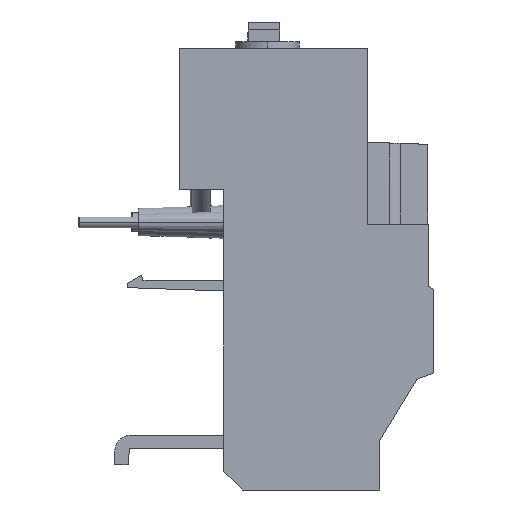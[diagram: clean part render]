
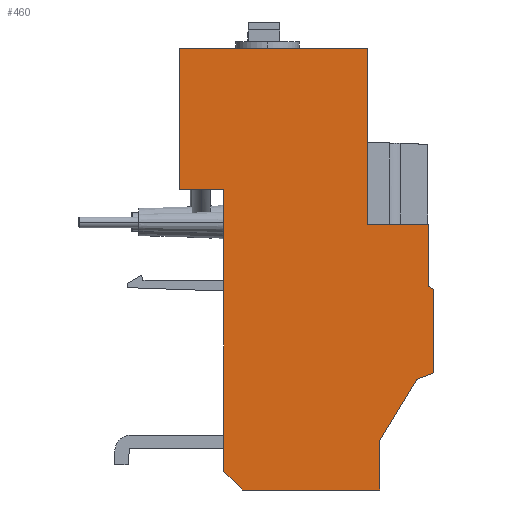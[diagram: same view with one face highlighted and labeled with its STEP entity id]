
A CAD part, left-side view. The second image highlights one B-rep face of the part: STEP entity #460.
In plain terms, the highlighted planar face has unit normal (-1, 0, 0).
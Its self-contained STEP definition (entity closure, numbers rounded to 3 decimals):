
#460 = ADVANCED_FACE( '', ( #1283 ), #1284, .F. );
#1283 = FACE_OUTER_BOUND( '', #2106, .T. );
#1284 = PLANE( '', #2107 );
#2106 = EDGE_LOOP( '', ( #5359, #5360, #5361, #5362, #5363, #5364, #5365, #5366, #5367, #5368, #5369, #5370, #5371, #5372 ) );
#2107 = AXIS2_PLACEMENT_3D( '', #5373, #5374, #5375 );
#5359 = ORIENTED_EDGE( '', *, *, #6400, .F. );
#5360 = ORIENTED_EDGE( '', *, *, #6402, .F. );
#5361 = ORIENTED_EDGE( '', *, *, #6404, .F. );
#5362 = ORIENTED_EDGE( '', *, *, #6411, .F. );
#5363 = ORIENTED_EDGE( '', *, *, #6414, .F. );
#5364 = ORIENTED_EDGE( '', *, *, #6417, .F. );
#5365 = ORIENTED_EDGE( '', *, *, #6420, .F. );
#5366 = ORIENTED_EDGE( '', *, *, #6423, .F. );
#5367 = ORIENTED_EDGE( '', *, *, #6426, .F. );
#5368 = ORIENTED_EDGE( '', *, *, #6428, .F. );
#5369 = ORIENTED_EDGE( '', *, *, #6430, .F. );
#5370 = ORIENTED_EDGE( '', *, *, #6203, .F. );
#5371 = ORIENTED_EDGE( '', *, *, #5713, .F. );
#5372 = ORIENTED_EDGE( '', *, *, #5687, .F. );
#5373 = CARTESIAN_POINT( '', ( 0., 0., 0. ) );
#5374 = DIRECTION( '', ( 1., 0., 0. ) );
#5375 = DIRECTION( '', ( 0., 0., -1. ) );
#5687 = EDGE_CURVE( '', #7021, #7023, #7024, .T. );
#5713 = EDGE_CURVE( '', #7023, #7062, #7063, .T. );
#6203 = EDGE_CURVE( '', #7062, #7836, #7837, .T. );
#6400 = EDGE_CURVE( '', #8140, #7021, #8142, .T. );
#6402 = EDGE_CURVE( '', #8143, #8140, #8145, .T. );
#6404 = EDGE_CURVE( '', #8146, #8143, #8148, .T. );
#6411 = EDGE_CURVE( '', #8157, #8146, #8159, .T. );
#6414 = EDGE_CURVE( '', #8162, #8157, #8164, .T. );
#6417 = EDGE_CURVE( '', #8167, #8162, #8169, .T. );
#6420 = EDGE_CURVE( '', #8172, #8167, #8174, .T. );
#6423 = EDGE_CURVE( '', #8177, #8172, #8179, .T. );
#6426 = EDGE_CURVE( '', #8182, #8177, #8184, .T. );
#6428 = EDGE_CURVE( '', #8185, #8182, #8187, .T. );
#6430 = EDGE_CURVE( '', #7836, #8185, #8189, .T. );
#7021 = VERTEX_POINT( '', #9049 );
#7023 = VERTEX_POINT( '', #9052 );
#7024 = LINE( '', #9053, #9054 );
#7062 = VERTEX_POINT( '', #9111 );
#7063 = LINE( '', #9112, #9113 );
#7836 = VERTEX_POINT( '', #10314 );
#7837 = LINE( '', #10315, #10316 );
#8140 = VERTEX_POINT( '', #10844 );
#8142 = LINE( '', #10847, #10848 );
#8143 = VERTEX_POINT( '', #10849 );
#8145 = LINE( '', #10852, #10853 );
#8146 = VERTEX_POINT( '', #10854 );
#8148 = LINE( '', #10857, #10858 );
#8157 = VERTEX_POINT( '', #10872 );
#8159 = LINE( '', #10875, #10876 );
#8162 = VERTEX_POINT( '', #10880 );
#8164 = LINE( '', #10883, #10884 );
#8167 = VERTEX_POINT( '', #10888 );
#8169 = LINE( '', #10891, #10892 );
#8172 = VERTEX_POINT( '', #10896 );
#8174 = LINE( '', #10899, #10900 );
#8177 = VERTEX_POINT( '', #10904 );
#8179 = LINE( '', #10907, #10908 );
#8182 = VERTEX_POINT( '', #10912 );
#8184 = LINE( '', #10915, #10916 );
#8185 = VERTEX_POINT( '', #10917 );
#8187 = LINE( '', #10920, #10921 );
#8189 = LINE( '', #10924, #10925 );
#9049 = CARTESIAN_POINT( '', ( 0., 2.3, 83. ) );
#9052 = CARTESIAN_POINT( '', ( 0., 2.3, 50. ) );
#9053 = CARTESIAN_POINT( '', ( 0., 2.3, 83. ) );
#9054 = VECTOR( '', #11429, 1. );
#9111 = CARTESIAN_POINT( '', ( 0., -9.2, 50. ) );
#9112 = CARTESIAN_POINT( '', ( 0., 2.3, 50. ) );
#9113 = VECTOR( '', #11467, 1. );
#10314 = CARTESIAN_POINT( '', ( 0., -9.2, 38.3 ) );
#10315 = CARTESIAN_POINT( '', ( 0., -9.2, 50. ) );
#10316 = VECTOR( '', #12079, 1. );
#10844 = CARTESIAN_POINT( '', ( 0., 37.6, 83. ) );
#10847 = CARTESIAN_POINT( '', ( 0., 37.6, 83. ) );
#10848 = VECTOR( '', #12340, 1. );
#10849 = CARTESIAN_POINT( '', ( 0., 37.6, 56.5 ) );
#10852 = CARTESIAN_POINT( '', ( 0., 37.6, 56.5 ) );
#10853 = VECTOR( '', #12342, 1. );
#10854 = CARTESIAN_POINT( '', ( 0., 29.3, 56.5 ) );
#10857 = CARTESIAN_POINT( '', ( 0., 29.3, 56.5 ) );
#10858 = VECTOR( '', #12344, 1. );
#10872 = CARTESIAN_POINT( '', ( 0., 29.3, 3.5 ) );
#10875 = CARTESIAN_POINT( '', ( 0., 29.3, 3.5 ) );
#10876 = VECTOR( '', #12351, 1. );
#10880 = CARTESIAN_POINT( '', ( 0., 25.8, 0. ) );
#10883 = CARTESIAN_POINT( '', ( 0., 25.8, 0. ) );
#10884 = VECTOR( '', #12354, 1. );
#10888 = CARTESIAN_POINT( '', ( 0., 0., 0. ) );
#10891 = CARTESIAN_POINT( '', ( 0., 0., 0. ) );
#10892 = VECTOR( '', #12357, 1. );
#10896 = CARTESIAN_POINT( '', ( 0., 0., 9.3 ) );
#10899 = CARTESIAN_POINT( '', ( 0., 0., 9.3 ) );
#10900 = VECTOR( '', #12360, 1. );
#10904 = CARTESIAN_POINT( '', ( 0., -6.997, 20.771 ) );
#10907 = CARTESIAN_POINT( '', ( 0., -6.997, 20.771 ) );
#10908 = VECTOR( '', #12363, 1. );
#10912 = CARTESIAN_POINT( '', ( 0., -10.2, 22. ) );
#10915 = CARTESIAN_POINT( '', ( 0., -10.2, 22. ) );
#10916 = VECTOR( '', #12366, 1. );
#10917 = CARTESIAN_POINT( '', ( 0., -10.2, 37.723 ) );
#10920 = CARTESIAN_POINT( '', ( 0., -10.2, 37.723 ) );
#10921 = VECTOR( '', #12368, 1. );
#10924 = CARTESIAN_POINT( '', ( 0., -9.2, 38.3 ) );
#10925 = VECTOR( '', #12370, 1. );
#11429 = DIRECTION( '', ( 0., 0., -1. ) );
#11467 = DIRECTION( '', ( 0., -1., 0. ) );
#12079 = DIRECTION( '', ( 0., 0., -1. ) );
#12340 = DIRECTION( '', ( 0., -1., 0. ) );
#12342 = DIRECTION( '', ( 0., 0., 1. ) );
#12344 = DIRECTION( '', ( 0., 1., 0. ) );
#12351 = DIRECTION( '', ( 0., 0., 1. ) );
#12354 = DIRECTION( '', ( 0., 0.707, 0.707 ) );
#12357 = DIRECTION( '', ( 0., 1., 0. ) );
#12360 = DIRECTION( '', ( 0., 0., -1. ) );
#12363 = DIRECTION( '', ( 0., 0.521, -0.854 ) );
#12366 = DIRECTION( '', ( 0., 0.934, -0.358 ) );
#12368 = DIRECTION( '', ( 0., 0., -1. ) );
#12370 = DIRECTION( '', ( 0., -0.866, -0.5 ) );
